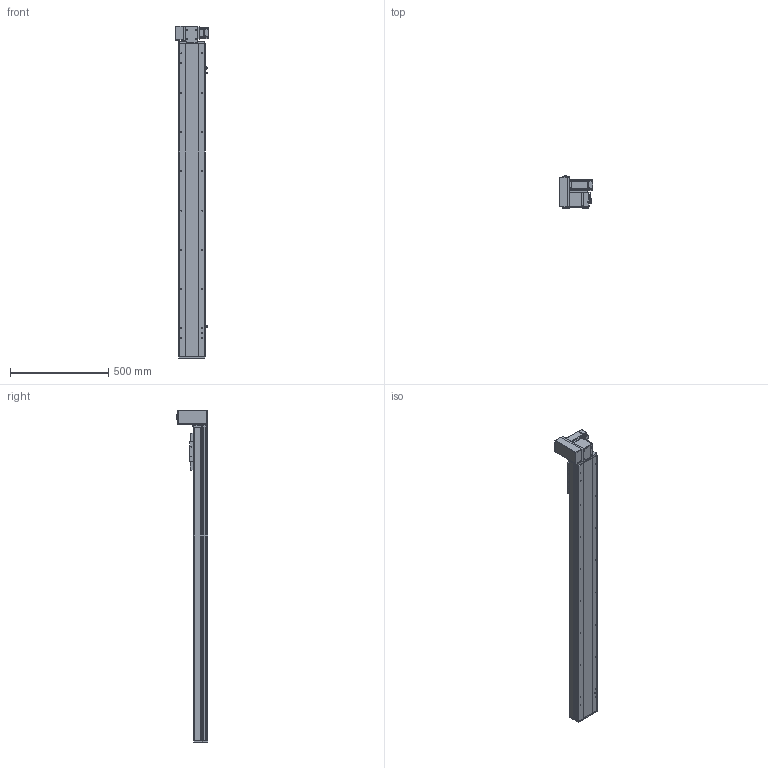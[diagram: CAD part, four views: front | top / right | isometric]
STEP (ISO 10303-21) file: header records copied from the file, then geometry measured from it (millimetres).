
FILE_DESCRIPTION (( 'STEP AP214' ), '1' );
FILE_NAME ('TPE14-L40-1300-LU-T40-C4.STEP', '2023-04-13T02:15:18', ( '' ), ( '' ), 'SwSTEP 2.0', 'SolidWorks 2020', '' );
FILE_SCHEMA (( 'AUTOMOTIVE_DESIGN' ));
Length unit declared in the file: millimetre
Products named in the file (10): hexagon head bolts-full thread gb_GB_FASTENER_BOLT_STBAB A M5X16-N; 葩璃 侂狟400W^TPE14-L40-LU-T40-C4; 葩璃 TPE14 賑雄殤^TPE14-L40-LU-T40-C4; 葩璃 TPT14-L-009 萇儂啣^TPE14-L40-LU-T40-C4_400W; 葩璃 TPE14-L-002 耜裔ZTMZ-135-04^TPE14-L40-LU-T40-C4; 葩璃 TPE14-L-001 菁釱MZ-135-01^TPE14-L40-LU-T40-C4; 葩璃 TPE14-L-007 々湍釱MZ-169x88^TPE14-L40-LU-T40-C4_YCB14; 葩璃 pm-t65-672^TPE14-L40-LU-T40-C4; 葩璃 詩湍75^TPE14-L40-LU-T40-C4; TPE14-L40-1300-LU-T40-C4
Assembly tree (12 placements, depth 2):
  TPE14-L40-1300-LU-T40-C4
    葩璃 TPE14-L-001 菁釱MZ-135-01^TPE14-L40-LU-T40-C4
    葩璃 TPE14-L-002 耜裔ZTMZ-135-04^TPE14-L40-LU-T40-C4  x2
    葩璃 詩湍75^TPE14-L40-LU-T40-C4
    葩璃 TPE14-L-007 々湍釱MZ-169x88^TPE14-L40-LU-T40-C4_YCB14
    葩璃 TPT14-L-009 萇儂啣^TPE14-L40-LU-T40-C4_400W
    葩璃 TPE14 賑雄殤^TPE14-L40-LU-T40-C4
    葩璃 pm-t65-672^TPE14-L40-LU-T40-C4  x3
    葩璃 侂狟400W^TPE14-L40-LU-T40-C4
    hexagon head bolts-full thread gb_GB_FASTENER_BOLT_STBAB A M5X16-N
Bounding box: 172.5 x 160.85 x 1690.5 mm (x, y, z)
Volume: 8616502.8 mm3; surface area: 1675455.1 mm2
Topology: 23 solids, 23 shells, 1428 faces, 3707 edges, 2350 vertices
Faces by surface type: plane 823, cylinder 429, cone 142, bspline 34
Entity records: 38099 total; most frequent: CARTESIAN_POINT 7422, DIRECTION 6088, ORIENTED_EDGE 5890, EDGE_CURVE 2945, AXIS2_PLACEMENT_3D 2070, LINE 1948, VECTOR 1948, VERTEX_POINT 1898
